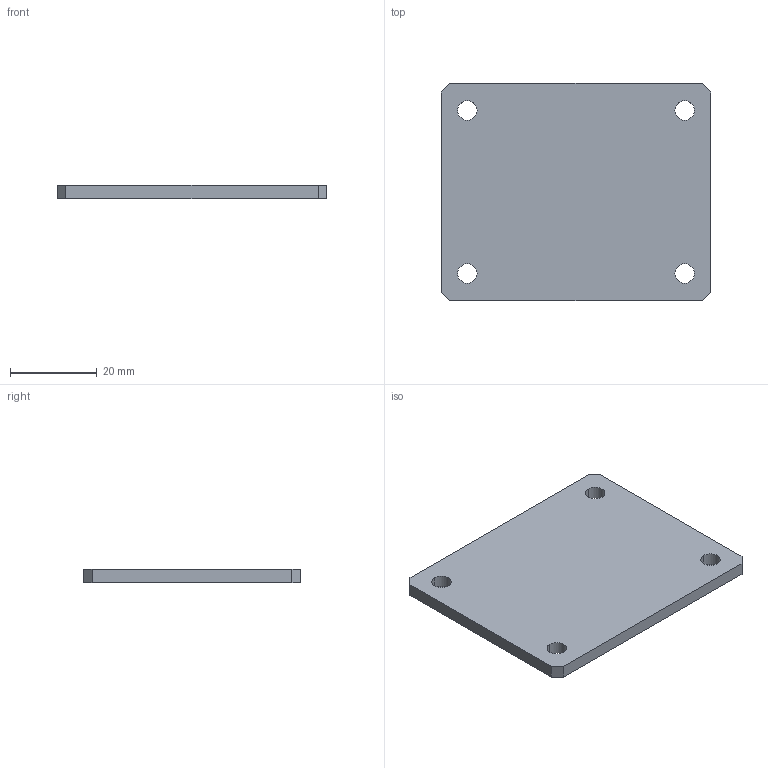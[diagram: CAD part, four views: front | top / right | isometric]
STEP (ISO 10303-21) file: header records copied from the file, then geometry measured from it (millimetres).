
FILE_DESCRIPTION(('CATIA V5 STEP Exchange','CAx-IF Rec.Pracs.--- Model Styling and Organization---1.5--- 2016-08-15','CAx-IF Rec.Pracs.---Supplemental Geometry---1.0---2011-11-01','CAx-IF Rec.Pracs.--- Composite Materials ---1.1---2010-07-15'),'2;1');
FILE_NAME('W:\8-25-003 RENOVATION DEBITMETRE PHI100 A S3\CATIA\Etude\S3MA-8-25003-1009--_PLAQUE_DARD-N-00853.stp','2026-02-06T08:57:55+00:00',('none'),('none'),'CATIA Version 5-6 Release 2020 SP6 HF13','CATIA V5 STEP AP214 v2','none');
FILE_SCHEMA(('AUTOMOTIVE_DESIGN { 1 0 10303 214 1 1 1 1 }'));
Length unit declared in the file: millimetre
Products named in the file (1): S3MA-8-25003-1009--_PLAQUE_DARD-N-00853
Bounding box: 62 x 50 x 3 mm (x, y, z)
Volume: 9085.1 mm3; surface area: 6884.4 mm2
Topology: 1 solids, 1 shells, 18 faces, 48 edges, 32 vertices
Faces by surface type: plane 10, cylinder 8
Entity records: 569 total; most frequent: ORIENTED_EDGE 96, CARTESIAN_POINT 95, DIRECTION 76, EDGE_CURVE 48, VECTOR 32, LINE 32, VERTEX_POINT 32, AXIS2_PLACEMENT_3D 31
